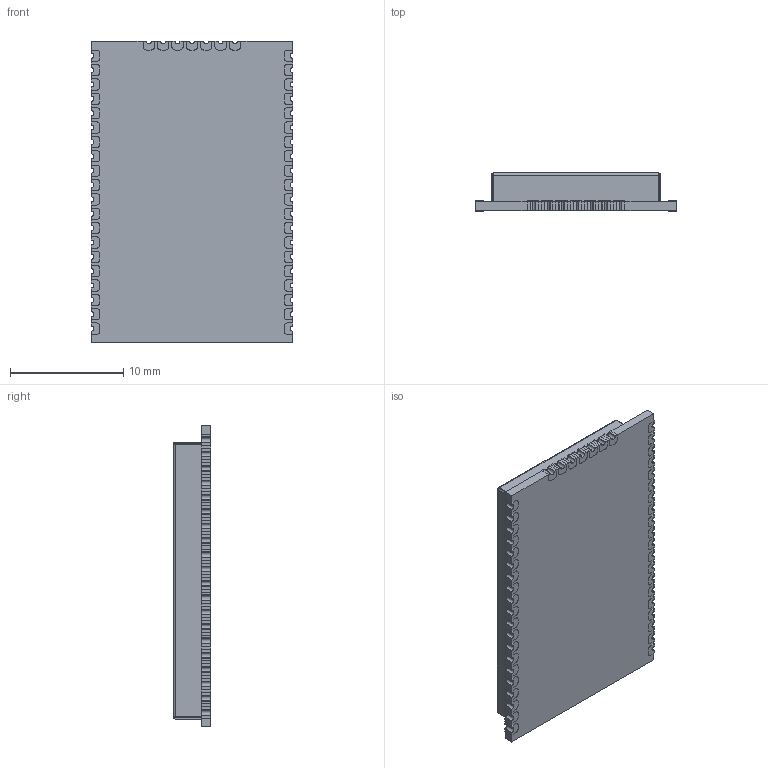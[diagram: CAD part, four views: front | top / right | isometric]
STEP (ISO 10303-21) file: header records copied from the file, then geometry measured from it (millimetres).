
FILE_DESCRIPTION (( 'STEP AP214' ), '1' );
FILE_NAME ('RN2483.STEP', '2015-08-05T12:30:01', ( '' ), ( '' ), 'SwSTEP 2.0', 'SolidWorks 2014', '' );
FILE_SCHEMA (( 'AUTOMOTIVE_DESIGN' ));
Length unit declared in the file: millimetre
Products named in the file (3): RN2483-CAN; RN2483-PCB; RN2483
Assembly tree (2 placements, depth 2):
  RN2483
    RN2483-PCB
    RN2483-CAN
Bounding box: 17.85 x 3.35 x 26.7 mm (x, y, z)
Volume: 457.5 mm3; surface area: 2381.4 mm2
Topology: 73 solids, 73 shells, 1223 faces, 3199 edges, 2122 vertices
Faces by surface type: plane 847, cylinder 289, bspline 87
Entity records: 53145 total; most frequent: CARTESIAN_POINT 9808, ORIENTED_EDGE 6398, DIRECTION 5885, EDGE_CURVE 3199, LINE 2447, VECTOR 2447, VERTEX_POINT 2122, AXIS2_PLACEMENT_3D 1719
